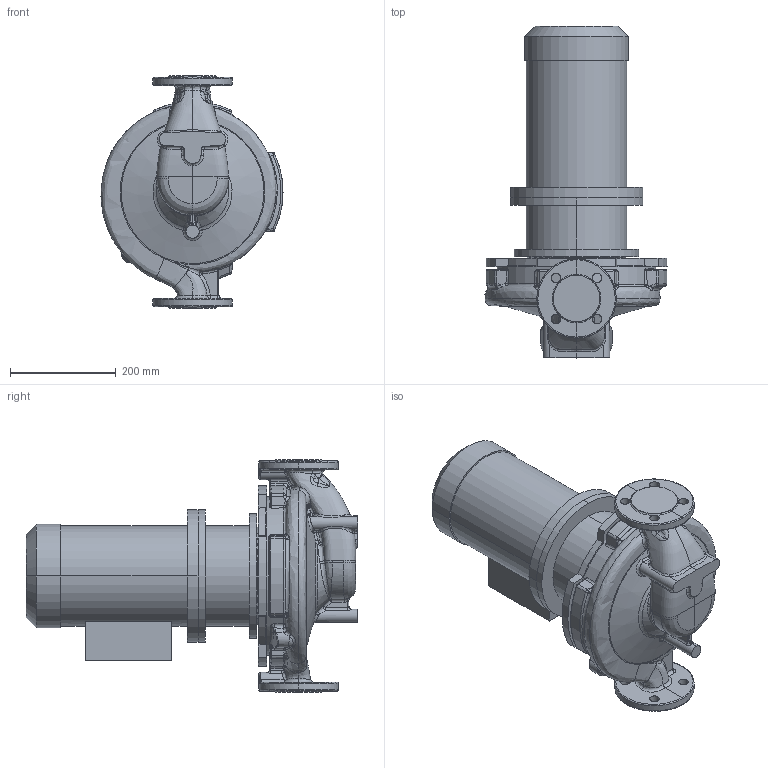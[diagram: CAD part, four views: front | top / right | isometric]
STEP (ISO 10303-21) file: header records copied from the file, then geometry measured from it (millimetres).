
FILE_DESCRIPTION (( 'STEP AP214' ), '1' );
FILE_NAME ('KRL 40-250-4-3.STEP', '2026-03-19T09:41:37', ( '' ), ( '' ), 'SwSTEP 2.0', 'SolidWorks 2016', '' );
FILE_SCHEMA (( 'AUTOMOTIVE_DESIGN' ));
Length unit declared in the file: millimetre
Products named in the file (1): KRL 40-250-4-3
Bounding box: 344.06 x 627.3 x 440 mm (x, y, z)
Volume: 25711078.7 mm3; surface area: 1172881.2 mm2
Topology: 4 solids, 4 shells, 661 faces, 1579 edges, 926 vertices
Faces by surface type: bspline 316, cylinder 130, plane 95, sphere 44, cone 42, torus 34
Entity records: 67064 total; most frequent: CARTESIAN_POINT 47170, ORIENTED_EDGE 3120, DIRECTION 1982, EDGE_CURVE 1560, VERTEX_POINT 926, AXIS2_PLACEMENT_3D 870, EDGE_LOOP 696, UNCERTAINTY_MEASURE_WITH_UNIT 667
